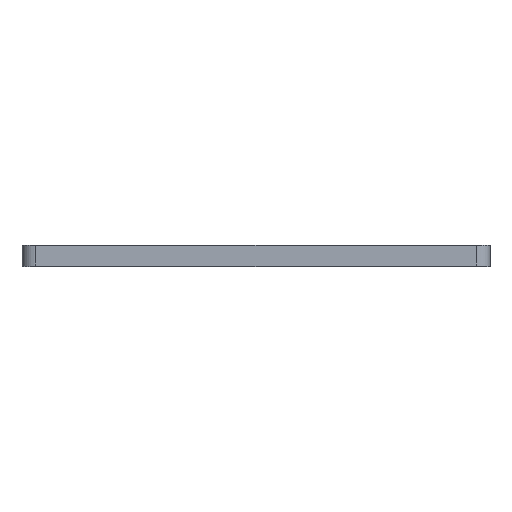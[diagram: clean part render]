
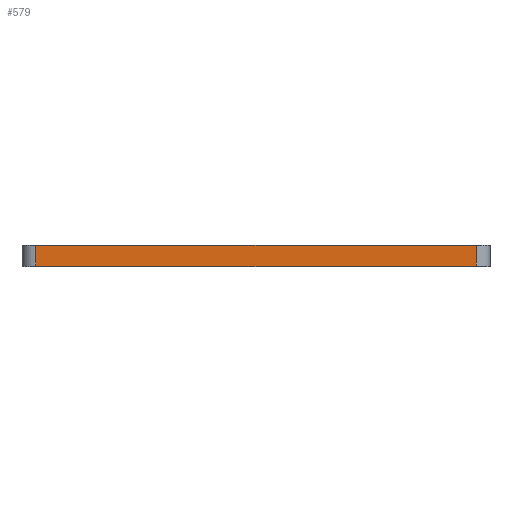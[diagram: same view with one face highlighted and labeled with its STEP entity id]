
A CAD part, top view. The second image highlights one B-rep face of the part: STEP entity #579.
In plain terms, the highlighted planar face has unit normal (0, 0, 1).
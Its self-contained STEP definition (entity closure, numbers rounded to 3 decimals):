
#10 = CARTESIAN_POINT ( 'NONE',  ( -58., -6., 30. ) ) ;
#70 = EDGE_CURVE ( 'NONE', #797, #834, #1102, .T. ) ;
#94 = VECTOR ( 'NONE', #404, 1000. ) ;
#110 = DIRECTION ( 'NONE',  ( 0., 1., 0. ) ) ;
#135 = ORIENTED_EDGE ( 'NONE', *, *, #470, .T. ) ;
#177 = ORIENTED_EDGE ( 'NONE', *, *, #70, .T. ) ;
#200 = VECTOR ( 'NONE', #291, 1000. ) ;
#272 = EDGE_CURVE ( 'NONE', #797, #363, #1213, .T. ) ;
#289 = CARTESIAN_POINT ( 'NONE',  ( -58., 0., 30. ) ) ;
#291 = DIRECTION ( 'NONE',  ( 0., -1., 0. ) ) ;
#296 = CARTESIAN_POINT ( 'NONE',  ( -1.931, -6., 30. ) ) ;
#299 = ORIENTED_EDGE ( 'NONE', *, *, #813, .T. ) ;
#301 = DIRECTION ( 'NONE',  ( 0., 0., 1. ) ) ;
#315 = FACE_OUTER_BOUND ( 'NONE', #1104, .T. ) ;
#363 = VERTEX_POINT ( 'NONE', #483 ) ;
#404 = DIRECTION ( 'NONE',  ( 0., 1., 0. ) ) ;
#418 = CARTESIAN_POINT ( 'NONE',  ( 5.069, -6., 30. ) ) ;
#450 = DIRECTION ( 'NONE',  ( 1., 0., 0. ) ) ;
#468 = VECTOR ( 'NONE', #471, 1000. ) ;
#470 = EDGE_CURVE ( 'NONE', #613, #363, #910, .T. ) ;
#471 = DIRECTION ( 'NONE',  ( 1., 0., 0. ) ) ;
#482 = CARTESIAN_POINT ( 'NONE',  ( -4.931, -3., 30. ) ) ;
#483 = CARTESIAN_POINT ( 'NONE',  ( 5.069, 0., 30. ) ) ;
#568 = AXIS2_PLACEMENT_3D ( 'NONE', #296, #301, #110 ) ;
#579 = ADVANCED_FACE ( 'NONE', ( #315 ), #1191, .T. ) ;
#613 = VERTEX_POINT ( 'NONE', #934 ) ;
#797 = VERTEX_POINT ( 'NONE', #289 ) ;
#813 = EDGE_CURVE ( 'NONE', #834, #613, #1156, .T. ) ;
#834 = VERTEX_POINT ( 'NONE', #1182 ) ;
#879 = VECTOR ( 'NONE', #450, 1000. ) ;
#910 = LINE ( 'NONE', #418, #94 ) ;
#934 = CARTESIAN_POINT ( 'NONE',  ( 5.069, -3., 30. ) ) ;
#1102 = LINE ( 'NONE', #10, #200 ) ;
#1104 = EDGE_LOOP ( 'NONE', ( #299, #135, #1245, #177 ) ) ;
#1156 = LINE ( 'NONE', #482, #468 ) ;
#1182 = CARTESIAN_POINT ( 'NONE',  ( -58., -3., 30. ) ) ;
#1191 = PLANE ( 'NONE',  #568 ) ;
#1213 = LINE ( 'NONE', #1249, #879 ) ;
#1245 = ORIENTED_EDGE ( 'NONE', *, *, #272, .F. ) ;
#1249 = CARTESIAN_POINT ( 'NONE',  ( -4.931, 0., 30. ) ) ;
